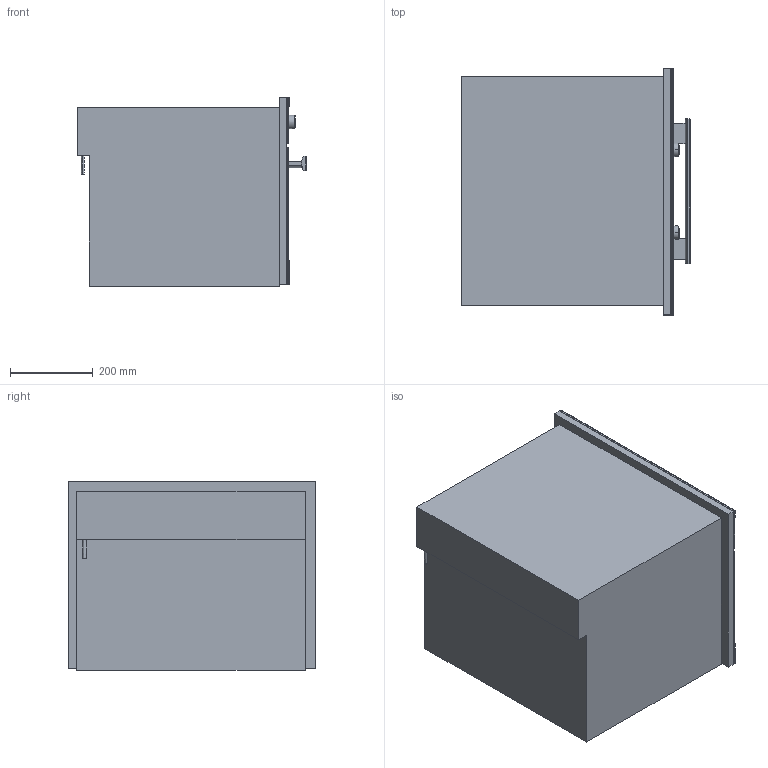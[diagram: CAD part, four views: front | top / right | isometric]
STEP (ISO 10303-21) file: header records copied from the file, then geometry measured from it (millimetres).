
FILE_DESCRIPTION(/* description */ (''),/* implementation_level */ '2;1');
FILE_NAME(/* name */ 'M6260_CLST',/* time_stamp */ '2013-04-22T14:50:18+02:00',/* author */ (''),/* organization */ (''),/* preprocessor_version */ 'ST-DEVELOPER v10',/* originating_system */ '',/* authorisation */ '');
FILE_SCHEMA (('AUTOMOTIVE_DESIGN_CC2'));
Length unit declared in the file: millimetre
Products named in the file (1): 1
Bounding box: 551.85 x 595.12 x 455.63 mm (x, y, z)
Volume: 70874213.1 mm3; surface area: 3501707.4 mm2
Topology: 13 solids, 13 shells, 133 faces, 282 edges, 169 vertices
Faces by surface type: bspline 133
Entity records: 4069 total; most frequent: CARTESIAN_POINT 2280, ORIENTED_EDGE 544, EDGE_CURVE 272, VERTEX_POINT 169, B_SPLINE_CURVE_WITH_KNOTS 164, EDGE_LOOP 139, ADVANCED_FACE 133, FACE_OUTER_BOUND 133
